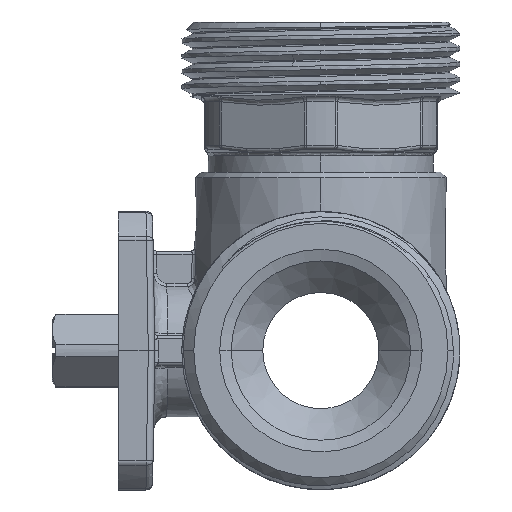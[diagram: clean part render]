
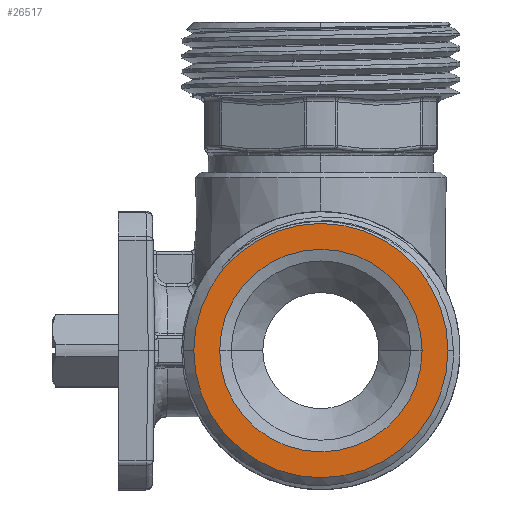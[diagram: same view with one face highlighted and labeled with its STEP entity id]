
A CAD part, left-side view. The second image highlights one B-rep face of the part: STEP entity #26517.
In plain terms, the highlighted planar face has unit normal (-1, 0, 0).
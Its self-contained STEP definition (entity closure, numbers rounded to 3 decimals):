
#3091=CARTESIAN_POINT('',(-49.,0.,0.));
#3092=DIRECTION('',(-1.,0.,0.));
#3093=DIRECTION('',(0.,1.,0.));
#3094=AXIS2_PLACEMENT_3D('',#3091,#3092,#3093);
#3096=CARTESIAN_POINT('',(-49.,0.,0.));
#3097=DIRECTION('',(-1.,0.,0.));
#3098=DIRECTION('',(0.,-1.,0.));
#3099=AXIS2_PLACEMENT_3D('',#3096,#3097,#3098);
#3101=CARTESIAN_POINT('',(-49.,0.,0.));
#3102=DIRECTION('',(-1.,0.,0.));
#3103=DIRECTION('',(0.,1.,0.));
#3104=AXIS2_PLACEMENT_3D('',#3101,#3102,#3103);
#3106=CARTESIAN_POINT('',(-49.,0.,0.));
#3107=DIRECTION('',(1.,0.,0.));
#3108=DIRECTION('',(0.,1.,0.));
#3109=AXIS2_PLACEMENT_3D('',#3106,#3107,#3108);
#22568=CARTESIAN_POINT('',(-49.,15.25,0.));
#22569=VERTEX_POINT('',#22568);
#22578=CARTESIAN_POINT('',(-49.,-15.25,0.));
#22579=VERTEX_POINT('',#22578);
#22584=CARTESIAN_POINT('',(-49.,19.15,0.));
#22585=CARTESIAN_POINT('',(-49.,-19.15,0.));
#22586=VERTEX_POINT('',#22584);
#22587=VERTEX_POINT('',#22585);
#26502=CARTESIAN_POINT('',(-49.,0.,0.));
#26503=DIRECTION('',(-1.,0.,0.));
#26504=DIRECTION('',(0.,1.,0.));
#26505=AXIS2_PLACEMENT_3D('',#26502,#26503,#26504);
#26506=PLANE('',#26505);
#26507=ORIENTED_EDGE('',*,*,#26496,.F.);
#26508=ORIENTED_EDGE('',*,*,#25763,.F.);
#26509=EDGE_LOOP('',(#26507,#26508));
#26510=FACE_OUTER_BOUND('',#26509,.F.);
#26512=ORIENTED_EDGE('',*,*,#26511,.T.);
#26514=ORIENTED_EDGE('',*,*,#26513,.F.);
#26515=EDGE_LOOP('',(#26512,#26514));
#26516=FACE_BOUND('',#26515,.F.);
#3095=CIRCLE('',#3094,19.15);
#3100=CIRCLE('',#3099,19.15);
#3105=CIRCLE('',#3104,15.25);
#3110=CIRCLE('',#3109,15.25);
#25763=EDGE_CURVE('',#22587,#22586,#3100,.T.);
#26496=EDGE_CURVE('',#22586,#22587,#3095,.T.);
#26511=EDGE_CURVE('',#22569,#22579,#3105,.T.);
#26513=EDGE_CURVE('',#22569,#22579,#3110,.T.);
#26517=ADVANCED_FACE('',(#26510,#26516),#26506,.T.);
